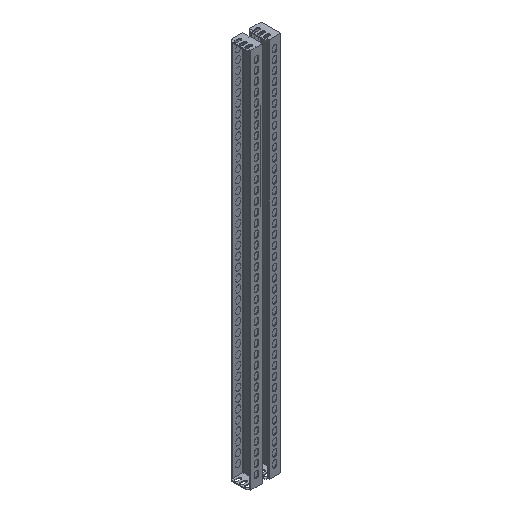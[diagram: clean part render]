
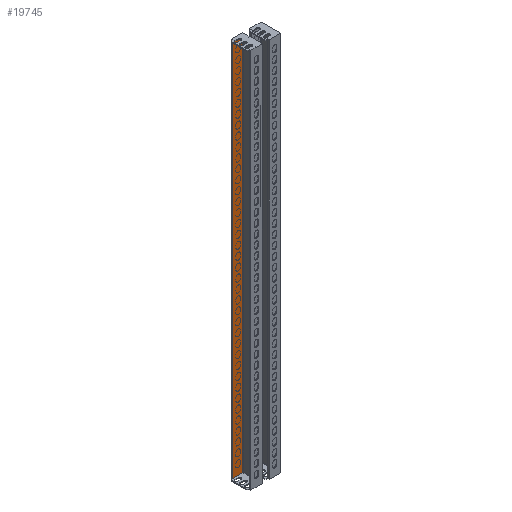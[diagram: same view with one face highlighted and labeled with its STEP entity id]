
A CAD part, isometric view. The second image highlights one B-rep face of the part: STEP entity #19745.
In plain terms, the highlighted planar face has unit normal (0, -1, 0).
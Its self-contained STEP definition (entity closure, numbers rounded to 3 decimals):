
#1461 = VECTOR ( 'NONE', #13099, 1000. ) ;
#1839 = CARTESIAN_POINT ( 'NONE',  ( -27., 20., -451. ) ) ;
#2950 = CARTESIAN_POINT ( 'NONE',  ( -27., 20., 451. ) ) ;
#3368 = LINE ( 'NONE', #7762, #12501 ) ;
#4082 = VERTEX_POINT ( 'NONE', #1839 ) ;
#5241 = EDGE_CURVE ( 'NONE', #4082, #7051, #5984, .T. ) ;
#5984 = LINE ( 'NONE', #8749, #8082 ) ;
#6124 = LINE ( 'NONE', #12332, #8644 ) ;
#7051 = VERTEX_POINT ( 'NONE', #20013 ) ;
#7686 = ORIENTED_EDGE ( 'NONE', *, *, #5241, .T. ) ;
#7735 = EDGE_CURVE ( 'NONE', #7051, #16561, #6124, .T. ) ;
#7762 = CARTESIAN_POINT ( 'NONE',  ( -32., 20., 451. ) ) ;
#8082 = VECTOR ( 'NONE', #13714, 1000. ) ;
#8290 = DIRECTION ( 'NONE',  ( 1., 0., 0. ) ) ;
#8644 = VECTOR ( 'NONE', #9384, 1000. ) ;
#8749 = CARTESIAN_POINT ( 'NONE',  ( -3., 20., -451. ) ) ;
#9052 = AXIS2_PLACEMENT_3D ( 'NONE', #18778, #12565, #8290 ) ;
#9384 = DIRECTION ( 'NONE',  ( 0., 0., 1. ) ) ;
#10902 = DIRECTION ( 'NONE',  ( -1., 0., 0. ) ) ;
#11432 = PLANE ( 'NONE',  #9052 ) ;
#12332 = CARTESIAN_POINT ( 'NONE',  ( -3., 20., -475.021 ) ) ;
#12501 = VECTOR ( 'NONE', #10902, 1000. ) ;
#12565 = DIRECTION ( 'NONE',  ( 0., 1., 0. ) ) ;
#12809 = ORIENTED_EDGE ( 'NONE', *, *, #17653, .F. ) ;
#12962 = ORIENTED_EDGE ( 'NONE', *, *, #17116, .T. ) ;
#13099 = DIRECTION ( 'NONE',  ( 0., 0., 1. ) ) ;
#13714 = DIRECTION ( 'NONE',  ( 1., 0., 0. ) ) ;
#16067 = LINE ( 'NONE', #19316, #1461 ) ;
#16330 = CARTESIAN_POINT ( 'NONE',  ( -3., 20., 451. ) ) ;
#16491 = ORIENTED_EDGE ( 'NONE', *, *, #7735, .T. ) ;
#16561 = VERTEX_POINT ( 'NONE', #16330 ) ;
#17116 = EDGE_CURVE ( 'NONE', #16561, #18789, #3368, .T. ) ;
#17251 = FACE_OUTER_BOUND ( 'NONE', #19059, .T. ) ;
#17653 = EDGE_CURVE ( 'NONE', #4082, #18789, #16067, .T. ) ;
#18778 = CARTESIAN_POINT ( 'NONE',  ( -3., 20., -475.021 ) ) ;
#18789 = VERTEX_POINT ( 'NONE', #2950 ) ;
#19059 = EDGE_LOOP ( 'NONE', ( #12962, #12809, #7686, #16491 ) ) ;
#19316 = CARTESIAN_POINT ( 'NONE',  ( -27., 20., -475.021 ) ) ;
#19745 = ADVANCED_FACE ( 'NONE', ( #17251 ), #11432, .F. ) ;
#20013 = CARTESIAN_POINT ( 'NONE',  ( -3., 20., -451. ) ) ;
